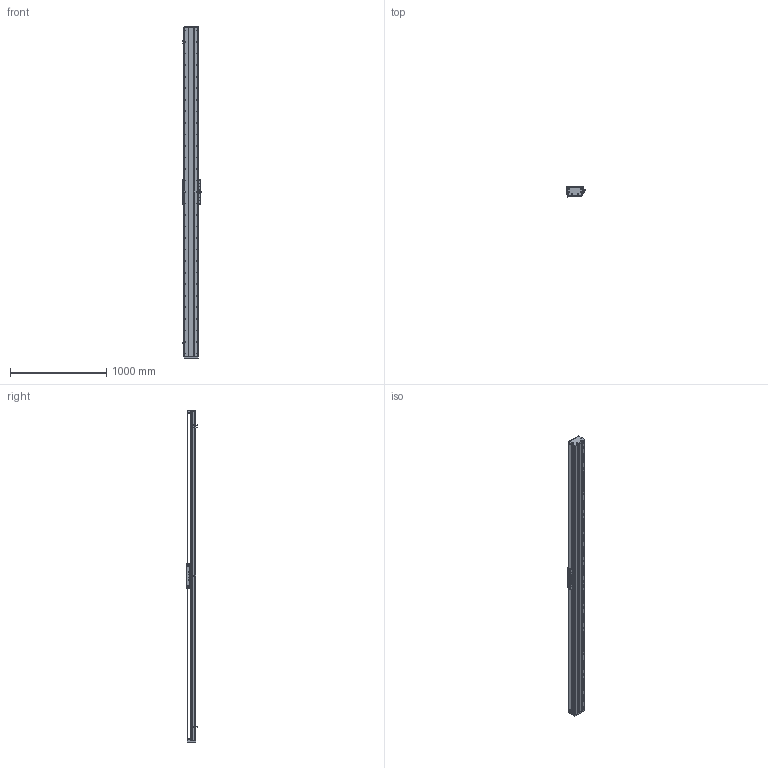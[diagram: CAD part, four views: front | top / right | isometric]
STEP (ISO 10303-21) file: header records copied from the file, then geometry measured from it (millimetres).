
FILE_DESCRIPTION (( 'STEP AP203' ), '1' );
FILE_NAME ('DA-C145-C3-T3120-C010-0.2 眻盄萇儂.STEP', '2025-08-14T01:37:07', ( '' ), ( '' ), 'SwSTEP 2.0', 'SolidWorks 2019', '' );
FILE_SCHEMA (( 'CONFIG_CONTROL_DESIGN' ));
Length unit declared in the file: millimetre
Products named in the file (32): 66245-CU145-HT-W-00 賑雄怢啣(3D芞祧)(00); 复件 DA145-DG 钢带端盖^复件 CU145 钢带组件_DA-C145-C3-T-C010-0.2; IU-CU145-L-00 菁釱(L3420); 复件 DA146 钢带拉块^复件 CU145 钢带组件_DA-C145-C3-T-C010-0.2; 葩璃 PM-T45^DA-C145-C3-T-C010-0.2; 复件 半圆头内六角螺钉 M3×6^CU145-W 滚珠滑台; 复件 DA95-MFP-01 密封片^CU145-W 滚珠滑台; 复件 DA95-HK-GT-00 滑块钢轨^CU145-W-00 一体化滑动台板; TAY01-M8; 葩璃 DA95-GT-T-00^IU-CU145-L 菁釱絳寢; 复件 纯铜油杯 6x6mm^CU145-W 滚珠滑台; 葩璃 CKMA01-W060-TRL^DA-C145-C3-T-C010-0.2; 复件 DA145 钢带^复件 CU145 钢带组件_DA-C145-C3-T-C010-0.2; 葩璃 DA145-C3-DP-B-00 菜えB^CU145-W 幗紩賑怢; 复件 DA145-C3-YB-B-00 压板B^CU145-W 滚珠滑台; IU-CU145-L 菁釱絳寢; 复件 DA145-GYP-00 光电感应片^DA-C145-C3-T-C010-0.2; 复件 DA145-C3-DK-00 挡块^CU145-W 滚珠滑台; 复件 内六角平端紧定螺钉 GB.T77-2000 M5×10^CU145-W 滚珠滑台; 葩璃 DMA-010-0.2 黍杅芛^DA-C145-C3-T-C010-0.2; 葩璃 鞠褒情蹟譫 M3^DA-C145-C3-T-C010-0.2; 复件 DA95-DB-00  挡板^CU145-W 滚珠滑台; 葩璃 CU145 詩湍郪璃^DA-C145-C3-T-C010-0.2; 葩璃 DA95-HXJ-00 遣喳砎蝶^DA-C145-C3-T-C010-0.2; 葩璃 XD-U-02L 棠掑喜^DA-C145-C3-T-C010-0.2; 葩璃 DA145-C3-DP-A-00 菜えA^CU145-W 幗紩賑怢; CU145-W-00 珨极趙賑雄怢啣; CU145-W 幗紩賑怢; 复件 DA146 钢带垫块^复件 CU145 钢带组件_DA-C145-C3-T-C010-0.2; 复件 DA145-C3-YB-A-00 压板A^CU145-W 滚珠滑台; 葩璃 CKM03-W060-C1C2-TP-0.2^DA-C145-C3-T-C010-0.2; DA-C145-C3-T3120-C010-0.2 眻盄萇儂
Assembly tree (103 placements, depth 4):
  DA-C145-C3-T3120-C010-0.2 眻盄萇儂
    IU-CU145-L 菁釱絳寢
      IU-CU145-L-00 菁釱(L3420)
      葩璃 DA95-GT-T-00^IU-CU145-L 菁釱絳寢  x4
    葩璃 CU145 詩湍郪璃^DA-C145-C3-T-C010-0.2
      复件 DA145-DG 钢带端盖^复件 CU145 钢带组件_DA-C145-C3-T-C010-0.2  x2
      复件 DA146 钢带拉块^复件 CU145 钢带组件_DA-C145-C3-T-C010-0.2  x2
      复件 DA146 钢带垫块^复件 CU145 钢带组件_DA-C145-C3-T-C010-0.2  x2
      复件 DA145 钢带^复件 CU145 钢带组件_DA-C145-C3-T-C010-0.2
    CU145-W 幗紩賑怢
      CU145-W-00 珨极趙賑雄怢啣
        66245-CU145-HT-W-00 賑雄怢啣(3D芞祧)(00)
        复件 DA95-HK-GT-00 滑块钢轨^CU145-W-00 一体化滑动台板  x8
      复件 DA95-MFP-01 密封片^CU145-W 滚珠滑台  x8
      复件 DA95-DB-00  挡板^CU145-W 滚珠滑台  x8
      复件 内六角平端紧定螺钉 GB.T77-2000 M5×10^CU145-W 滚珠滑台  x4
      复件 纯铜油杯 6x6mm^CU145-W 滚珠滑台  x4
      复件 半圆头内六角螺钉 M3×6^CU145-W 滚珠滑台  x16
      复件 DA145-C3-DK-00 挡块^CU145-W 滚珠滑台  x4
      葩璃 DA145-C3-DP-B-00 菜えB^CU145-W 幗紩賑怢  x2
      复件 DA145-C3-YB-B-00 压板B^CU145-W 滚珠滑台  x2
      葩璃 DA145-C3-DP-A-00 菜えA^CU145-W 幗紩賑怢  x3
      复件 DA145-C3-YB-A-00 压板A^CU145-W 滚珠滑台  x3
      TAY01-M8  x4
    葩璃 CKMA01-W060-TRL^DA-C145-C3-T-C010-0.2
    葩璃 PM-T45^DA-C145-C3-T-C010-0.2  x3
    葩璃 XD-U-02L 棠掑喜^DA-C145-C3-T-C010-0.2
    葩璃 DA95-HXJ-00 遣喳砎蝶^DA-C145-C3-T-C010-0.2  x4
    复件 DA145-GYP-00 光电感应片^DA-C145-C3-T-C010-0.2
    葩璃 DMA-010-0.2 黍杅芛^DA-C145-C3-T-C010-0.2
    葩璃 CKM03-W060-C1C2-TP-0.2^DA-C145-C3-T-C010-0.2
    葩璃 鞠褒情蹟譫 M3^DA-C145-C3-T-C010-0.2  x8
Bounding box: 203.5 x 108.45 x 3456 mm (x, y, z)
Volume: 15580507 mm3; surface area: 5294802.4 mm2
Topology: 99 solids, 131 shells, 4982 faces, 14660 edges, 9238 vertices
Faces by surface type: cylinder 2604, plane 1610, cone 690, torus 74, sphere 4
Entity records: 147886 total; most frequent: CARTESIAN_POINT 46488, ORIENTED_EDGE 20840, DIRECTION 19323, EDGE_CURVE 10420, AXIS2_PLACEMENT_3D 7276, VERTEX_POINT 6777, VECTOR 4771, LINE 4771
